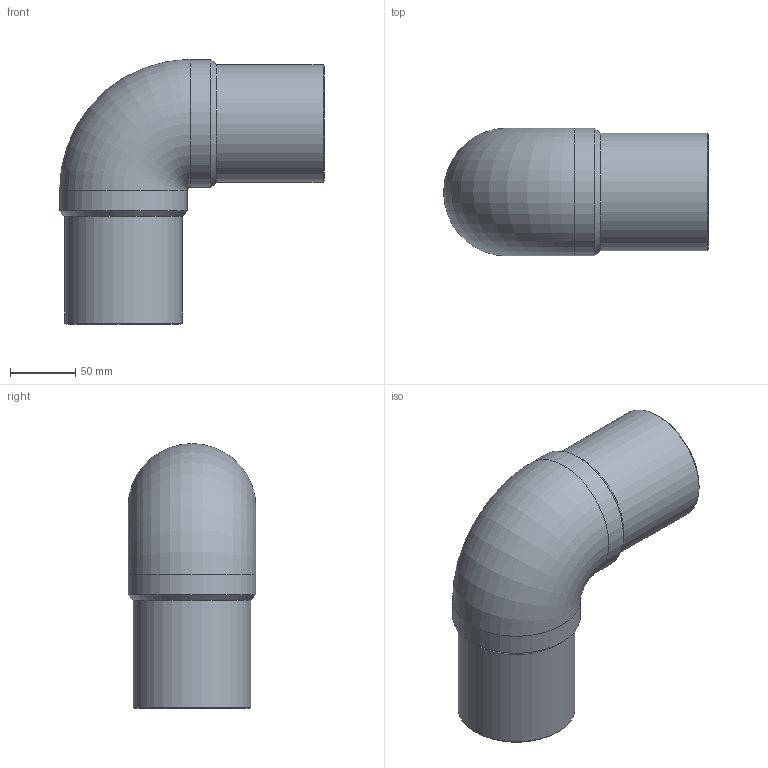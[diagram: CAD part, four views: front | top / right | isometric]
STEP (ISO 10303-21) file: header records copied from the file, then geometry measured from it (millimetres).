
FILE_DESCRIPTION(/* description */ ('Unknown'),/* implementation_level */ '2;1');
FILE_NAME(/* name */ 'G9P090B',/* time_stamp */ '2021-11-15T12:22:16+01:00',/* author */ ('Unknown'),/* organization */ ('Unknown'),/* preprocessor_version */ 'ST-DEVELOPER v16.7',/* originating_system */ 'Solid Edge',/* authorisation */ 'Unknown');
FILE_SCHEMA (('AUTOMOTIVE_DESIGN {1 0 10303 214 3 1 1}'));
Length unit declared in the file: millimetre
Products named in the file (1): G9P090B
Bounding box: 203 x 98 x 203 mm (x, y, z)
Volume: 555331.7 mm3; surface area: 158774.2 mm2
Topology: 1 solids, 1 shells, 14 faces, 34 edges, 22 vertices
Faces by surface type: cylinder 6, cone 4, plane 2, torus 2
Full cylindrical faces by diameter (mm): 79.2 x2, 90 x2, 98 x2
Entity records: 372 total; most frequent: CARTESIAN_POINT 72, DIRECTION 60, ORIENTED_EDGE 38, AXIS2_PLACEMENT_3D 30, EDGE_LOOP 27, FACE_BOUND 27, EDGE_CURVE 19, VERTEX_POINT 18
